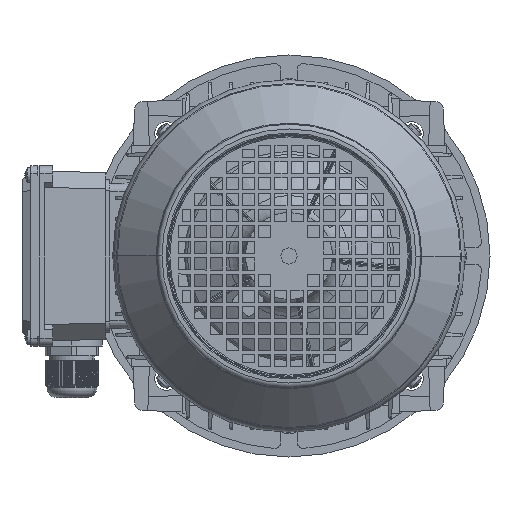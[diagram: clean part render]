
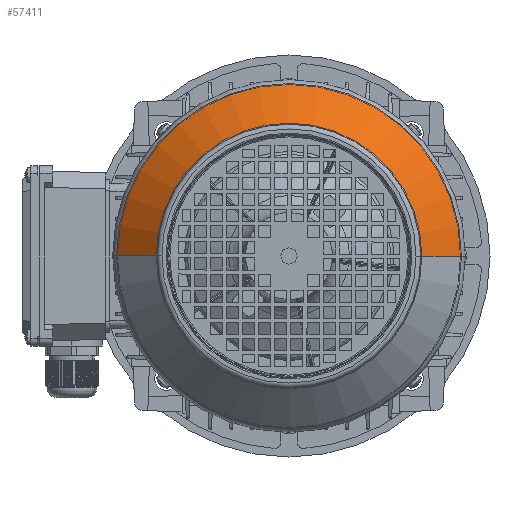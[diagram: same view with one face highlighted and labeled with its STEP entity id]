
A CAD part, left-side view. The second image highlights one B-rep face of the part: STEP entity #57411.
In plain terms, the highlighted conical face has half-angle 45 degrees and reference radius 82.586 mm.
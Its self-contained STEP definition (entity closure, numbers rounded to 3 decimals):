
#50517 = VERTEX_POINT ( 'NONE', #78598 ) ;
#50583 = VERTEX_POINT ( 'NONE', #79137 ) ;
#50584 = VERTEX_POINT ( 'NONE', #79135 ) ;
#50586 = EDGE_CURVE ( 'NONE', #50584, #50517, #79130, .T. ) ;
#50604 = VERTEX_POINT ( 'NONE', #79202 ) ;
#50640 = EDGE_CURVE ( 'NONE', #50583, #50604, #79328, .T. ) ;
#50644 = EDGE_CURVE ( 'NONE', #50584, #50583, #79314, .T. ) ;
#57411 = ADVANCED_FACE ( 'NONE', ( #97456 ), #97455, .T. ) ;
#57412 = EDGE_LOOP ( 'NONE', ( #57413, #57471, #57472, #57473 ) ) ;
#57413 = ORIENTED_EDGE ( 'NONE', *, *, #50586, .F. ) ;
#57471 = ORIENTED_EDGE ( 'NONE', *, *, #50644, .T. ) ;
#57472 = ORIENTED_EDGE ( 'NONE', *, *, #50640, .T. ) ;
#57473 = ORIENTED_EDGE ( 'NONE', *, *, #57474, .F. ) ;
#57474 = EDGE_CURVE ( 'NONE', #50517, #50604, #97679, .T. ) ;
#78598 = CARTESIAN_POINT ( 'NONE',  ( 74.743, 0., -107.257 ) ) ;
#79126 = DIRECTION ( 'NONE',  ( -0.707, 0., -0.707 ) ) ;
#79127 = VECTOR ( 'NONE', #79126, 1000. ) ;
#79129 = CARTESIAN_POINT ( 'NONE',  ( 99.414, 0., -82.586 ) ) ;
#79130 = LINE ( 'NONE', #79129, #79127 ) ;
#79135 = CARTESIAN_POINT ( 'NONE',  ( 99.414, 0., -82.586 ) ) ;
#79137 = CARTESIAN_POINT ( 'NONE',  ( 99.414, 0., 82.586 ) ) ;
#79202 = CARTESIAN_POINT ( 'NONE',  ( 74.743, 0., 107.257 ) ) ;
#79297 = DIRECTION ( 'NONE',  ( 0., 0., 1. ) ) ;
#79299 = DIRECTION ( 'NONE',  ( -1., 0., 0. ) ) ;
#79301 = CARTESIAN_POINT ( 'NONE',  ( 99.414, 0., 0. ) ) ;
#79303 = AXIS2_PLACEMENT_3D ( 'NONE', #79301, #79299, #79297 ) ;
#79314 = CIRCLE ( 'NONE', #79303, 82.586 ) ;
#79323 = DIRECTION ( 'NONE',  ( -0.707, 0., 0.707 ) ) ;
#79325 = VECTOR ( 'NONE', #79323, 1000. ) ;
#79326 = CARTESIAN_POINT ( 'NONE',  ( 99.414, 0., 82.586 ) ) ;
#79328 = LINE ( 'NONE', #79326, #79325 ) ;
#97455 = CONICAL_SURFACE ( 'NONE', #97508, 82.586, 0.785 ) ;
#97456 = FACE_OUTER_BOUND ( 'NONE', #57412, .T. ) ;
#97504 = DIRECTION ( 'NONE',  ( 0., 0., 1. ) ) ;
#97505 = DIRECTION ( 'NONE',  ( -1., 0., 0. ) ) ;
#97506 = CARTESIAN_POINT ( 'NONE',  ( 99.414, 0., 0. ) ) ;
#97508 = AXIS2_PLACEMENT_3D ( 'NONE', #97506, #97505, #97504 ) ;
#97641 = CARTESIAN_POINT ( 'NONE',  ( 74.743, 0., 0. ) ) ;
#97675 = DIRECTION ( 'NONE',  ( 0., 0., 1. ) ) ;
#97677 = DIRECTION ( 'NONE',  ( -1., 0., 0. ) ) ;
#97678 = AXIS2_PLACEMENT_3D ( 'NONE', #97641, #97677, #97675 ) ;
#97679 = CIRCLE ( 'NONE', #97678, 107.257 ) ;
